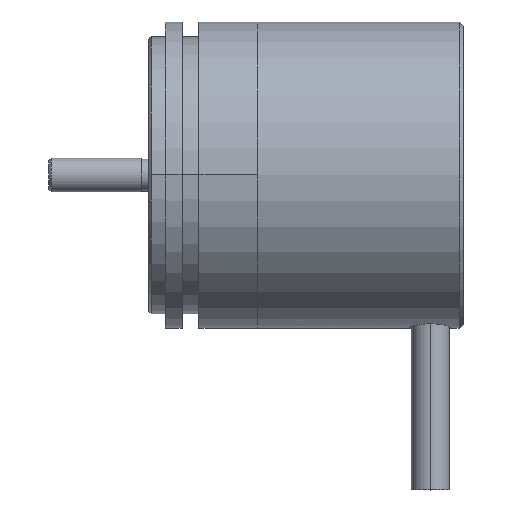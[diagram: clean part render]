
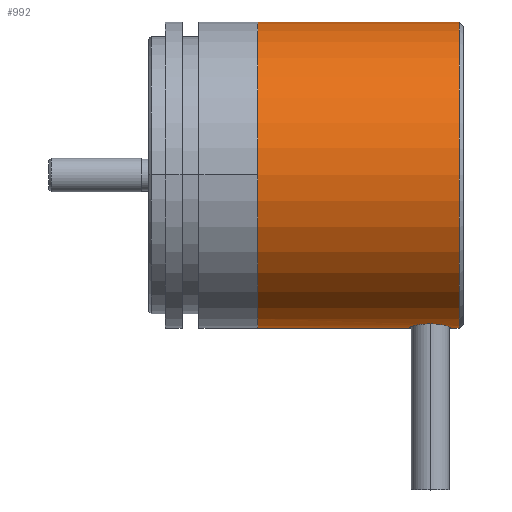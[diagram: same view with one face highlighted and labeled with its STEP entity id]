
A CAD part, top view. The second image highlights one B-rep face of the part: STEP entity #992.
In plain terms, the highlighted cylindrical face has radius 18.25 mm (diameter 36.5 mm), a partial arc.
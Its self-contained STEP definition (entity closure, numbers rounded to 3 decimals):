
#11 = DIRECTION ( 'NONE',  ( 1., 0., 0. ) ) ;
#14 = CARTESIAN_POINT ( 'NONE',  ( 43.798, 1.032, 22.993 ) ) ;
#24 = CARTESIAN_POINT ( 'NONE',  ( 47.193, 1.382, 24.942 ) ) ;
#42 = CARTESIAN_POINT ( 'NONE',  ( 47.858, 0.898, 20.918 ) ) ;
#52 = DIRECTION ( 'NONE',  ( 0., 1., 0. ) ) ;
#365 = CARTESIAN_POINT ( 'NONE',  ( 49.678, 37.398, 20.766 ) ) ;
#380 = CARTESIAN_POINT ( 'NONE',  ( 44., 1.137, 23.722 ) ) ;
#391 = CARTESIAN_POINT ( 'NONE',  ( 47.825, 1.29, 24.531 ) ) ;
#423 = CARTESIAN_POINT ( 'NONE',  ( 50.178, 0.898, 20.766 ) ) ;
#500 = CARTESIAN_POINT ( 'NONE',  ( 25.678, 0.898, 20.766 ) ) ;
#741 = CARTESIAN_POINT ( 'NONE',  ( 44.558, 0.898, 20.918 ) ) ;
#757 = CARTESIAN_POINT ( 'NONE',  ( 44.413, 1.253, 24.353 ) ) ;
#767 = CARTESIAN_POINT ( 'NONE',  ( 48.3, 1.176, 23.947 ) ) ;
#907 = CARTESIAN_POINT ( 'NONE',  ( 50.178, 19.148, 20.766 ) ) ;
#926 = DIRECTION ( 'NONE',  ( 0., 1., 0. ) ) ;
#992 = ADVANCED_FACE ( 'NONE', ( #5533 ), #5514, .T. ) ;
#1098 = LINE ( 'NONE', #423, #1705 ) ;
#1101 = LINE ( 'NONE', #2172, #1722 ) ;
#1125 = AXIS2_PLACEMENT_3D ( 'NONE', #2196, #5493, #2688 ) ;
#1128 = AXIS2_PLACEMENT_3D ( 'NONE', #5473, #2665, #52 ) ;
#1143 = CARTESIAN_POINT ( 'NONE',  ( 44.378, 0.9, 21.104 ) ) ;
#1163 = CARTESIAN_POINT ( 'NONE',  ( 44.999, 1.355, 24.828 ) ) ;
#1179 = CARTESIAN_POINT ( 'NONE',  ( 48.575, 1.066, 23.246 ) ) ;
#1624 = CARTESIAN_POINT ( 'NONE',  ( 43.976, 0.923, 21.75 ) ) ;
#1649 = CARTESIAN_POINT ( 'NONE',  ( 45.705, 1.42, 25.1 ) ) ;
#1663 = CARTESIAN_POINT ( 'NONE',  ( 48.625, 0.978, 22.49 ) ) ;
#1687 = VECTOR ( 'NONE', #3180, 1000. ) ;
#1689 = LINE ( 'NONE', #5044, #1687 ) ;
#1705 = VECTOR ( 'NONE', #4111, 1000. ) ;
#1722 = VECTOR ( 'NONE', #11, 1000. ) ;
#1727 = CIRCLE ( 'NONE', #1128, 18.25 ) ;
#1739 = VERTEX_POINT ( 'NONE', #4618 ) ;
#1865 = B_SPLINE_CURVE_WITH_KNOTS ( 'NONE', 3,
 ( #4988, #5439, #2625, #24, #3125, #391, #3600, #767, #4074, #1179, #4553, #1663, #5009, #2153, #5457, #2644, #42, #3145 ),
 .UNSPECIFIED., .F., .F.,
 ( 4, 2, 2, 2, 2, 2, 2, 2, 4 ),
 ( 0., 0.05, 0.099, 0.149, 0.199, 0.249, 0.298, 0.348, 0.398 ),
 .UNSPECIFIED. ) ;
#2121 = CARTESIAN_POINT ( 'NONE',  ( 43.837, 0.957, 22.237 ) ) ;
#2127 = B_SPLINE_CURVE_WITH_KNOTS ( 'NONE', 3,
 ( #3566, #741, #1143, #4522, #1624, #4970, #2121, #5426, #2611, #14, #3110, #380, #3587, #757, #4056, #1163, #4540, #1649, #4994, #2138 ),
 .UNSPECIFIED., .F., .F.,
 ( 4, 2, 2, 2, 2, 2, 2, 2, 2, 4 ),
 ( 0.602, 0.652, 0.701, 0.726, 0.751, 0.801, 0.851, 0.9, 0.95, 1. ),
 .UNSPECIFIED. ) ;
#2138 = CARTESIAN_POINT ( 'NONE',  ( 46.208, 1.43, 25.139 ) ) ;
#2153 = CARTESIAN_POINT ( 'NONE',  ( 48.44, 0.923, 21.75 ) ) ;
#2172 = CARTESIAN_POINT ( 'NONE',  ( 50.178, 0.898, 20.766 ) ) ;
#2196 = CARTESIAN_POINT ( 'NONE',  ( 49.678, 19.148, 20.766 ) ) ;
#2611 = CARTESIAN_POINT ( 'NONE',  ( 43.793, 0.991, 22.616 ) ) ;
#2625 = CARTESIAN_POINT ( 'NONE',  ( 46.711, 1.42, 25.1 ) ) ;
#2644 = CARTESIAN_POINT ( 'NONE',  ( 48.038, 0.9, 21.104 ) ) ;
#2665 = DIRECTION ( 'NONE',  ( 1., 0., 0. ) ) ;
#2688 = DIRECTION ( 'NONE',  ( 0., 1., 0. ) ) ;
#2997 = AXIS2_PLACEMENT_3D ( 'NONE', #907, #3297, #926 ) ;
#3016 = VERTEX_POINT ( 'NONE', #3991 ) ;
#3041 = VERTEX_POINT ( 'NONE', #5453 ) ;
#3110 = CARTESIAN_POINT ( 'NONE',  ( 43.841, 1.066, 23.247 ) ) ;
#3125 = CARTESIAN_POINT ( 'NONE',  ( 47.418, 1.355, 24.827 ) ) ;
#3145 = CARTESIAN_POINT ( 'NONE',  ( 47.657, 0.898, 20.766 ) ) ;
#3180 = DIRECTION ( 'NONE',  ( 1., 0., 0. ) ) ;
#3297 = DIRECTION ( 'NONE',  ( 1., 0., 0. ) ) ;
#3566 = CARTESIAN_POINT ( 'NONE',  ( 44.759, 0.898, 20.766 ) ) ;
#3587 = CARTESIAN_POINT ( 'NONE',  ( 44.117, 1.176, 23.949 ) ) ;
#3600 = CARTESIAN_POINT ( 'NONE',  ( 48.004, 1.253, 24.352 ) ) ;
#3991 = CARTESIAN_POINT ( 'NONE',  ( 44.759, 0.898, 20.766 ) ) ;
#4053 = VERTEX_POINT ( 'NONE', #500 ) ;
#4056 = CARTESIAN_POINT ( 'NONE',  ( 44.591, 1.29, 24.532 ) ) ;
#4074 = CARTESIAN_POINT ( 'NONE',  ( 48.416, 1.137, 23.721 ) ) ;
#4111 = DIRECTION ( 'NONE',  ( 1., 0., 0. ) ) ;
#4138 = EDGE_CURVE ( 'NONE', #3016, #3041, #2127, .T. ) ;
#4171 = VERTEX_POINT ( 'NONE', #365 ) ;
#4212 = CARTESIAN_POINT ( 'NONE',  ( 25.678, 37.398, 20.766 ) ) ;
#4247 = CIRCLE ( 'NONE', #1125, 18.25 ) ;
#4522 = CARTESIAN_POINT ( 'NONE',  ( 44.089, 0.912, 21.518 ) ) ;
#4540 = CARTESIAN_POINT ( 'NONE',  ( 45.223, 1.382, 24.943 ) ) ;
#4553 = CARTESIAN_POINT ( 'NONE',  ( 48.618, 1.032, 22.992 ) ) ;
#4618 = CARTESIAN_POINT ( 'NONE',  ( 49.678, 0.898, 20.766 ) ) ;
#4627 = CARTESIAN_POINT ( 'NONE',  ( 47.657, 0.898, 20.766 ) ) ;
#4798 = EDGE_LOOP ( 'NONE', ( #5608, #5615, #5627, #5635, #5661, #5676, #5691 ) ) ;
#4970 = CARTESIAN_POINT ( 'NONE',  ( 43.864, 0.947, 22.113 ) ) ;
#4988 = CARTESIAN_POINT ( 'NONE',  ( 46.208, 1.43, 25.139 ) ) ;
#4994 = CARTESIAN_POINT ( 'NONE',  ( 45.955, 1.43, 25.139 ) ) ;
#5009 = CARTESIAN_POINT ( 'NONE',  ( 48.588, 0.955, 22.234 ) ) ;
#5044 = CARTESIAN_POINT ( 'NONE',  ( 50.178, 37.398, 20.766 ) ) ;
#5426 = CARTESIAN_POINT ( 'NONE',  ( 43.801, 0.979, 22.488 ) ) ;
#5439 = CARTESIAN_POINT ( 'NONE',  ( 46.463, 1.43, 25.139 ) ) ;
#5453 = CARTESIAN_POINT ( 'NONE',  ( 46.208, 1.43, 25.139 ) ) ;
#5457 = CARTESIAN_POINT ( 'NONE',  ( 48.327, 0.912, 21.518 ) ) ;
#5473 = CARTESIAN_POINT ( 'NONE',  ( 25.678, 19.148, 20.766 ) ) ;
#5493 = DIRECTION ( 'NONE',  ( 1., 0., 0. ) ) ;
#5514 = CYLINDRICAL_SURFACE ( 'NONE', #2997, 18.25 ) ;
#5533 = FACE_OUTER_BOUND ( 'NONE', #4798, .T. ) ;
#5608 = ORIENTED_EDGE ( 'NONE', *, *, #5731, .T. ) ;
#5611 = VERTEX_POINT ( 'NONE', #4627 ) ;
#5615 = ORIENTED_EDGE ( 'NONE', *, *, #5749, .T. ) ;
#5627 = ORIENTED_EDGE ( 'NONE', *, *, #4138, .T. ) ;
#5635 = ORIENTED_EDGE ( 'NONE', *, *, #5711, .T. ) ;
#5661 = ORIENTED_EDGE ( 'NONE', *, *, #5762, .T. ) ;
#5676 = ORIENTED_EDGE ( 'NONE', *, *, #5769, .F. ) ;
#5691 = ORIENTED_EDGE ( 'NONE', *, *, #5776, .F. ) ;
#5703 = VERTEX_POINT ( 'NONE', #4212 ) ;
#5711 = EDGE_CURVE ( 'NONE', #3041, #5611, #1865, .T. ) ;
#5731 = EDGE_CURVE ( 'NONE', #5703, #4053, #1727, .T. ) ;
#5749 = EDGE_CURVE ( 'NONE', #4053, #3016, #1101, .T. ) ;
#5762 = EDGE_CURVE ( 'NONE', #5611, #1739, #1098, .T. ) ;
#5769 = EDGE_CURVE ( 'NONE', #4171, #1739, #4247, .T. ) ;
#5776 = EDGE_CURVE ( 'NONE', #5703, #4171, #1689, .T. ) ;
